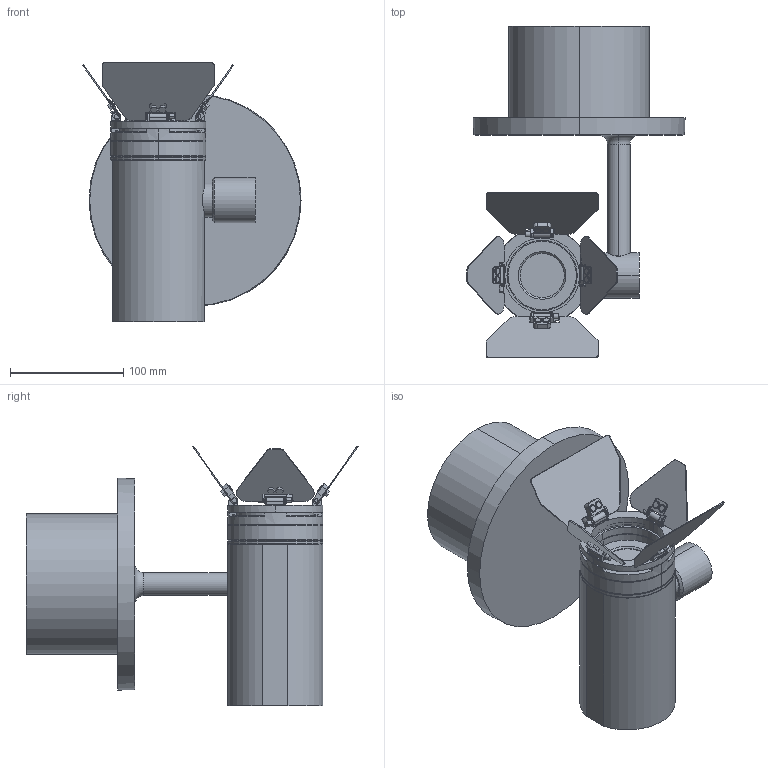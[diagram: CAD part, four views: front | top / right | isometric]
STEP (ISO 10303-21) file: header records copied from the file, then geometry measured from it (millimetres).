
FILE_DESCRIPTION (( 'STEP AP203' ), '1' );
FILE_NAME ('P1X (Monopoint)_Hanging_10-06-2026.STEP', '2026-06-10T01:14:42', ( '' ), ( '' ), 'SwSTEP 2.0', 'SolidWorks 2014', '' );
FILE_SCHEMA (( 'CONFIG_CONTROL_DESIGN' ));
Length unit declared in the file: millimetre
Products named in the file (4): Monopoint_Yoke+PSU; 2.5 inch 4-leaf Barndoor; P1X - Light Body; P1X (Monopoint)_Hanging_10-06-2026
Assembly tree (3 placements, depth 2):
  P1X (Monopoint)_Hanging_10-06-2026
    Monopoint_Yoke+PSU
    P1X - Light Body
    2.5 inch 4-leaf Barndoor
Bounding box: 192.48 x 292.91 x 229.38 mm (x, y, z)
Volume: 2279775.7 mm3; surface area: 221765.7 mm2
Topology: 3 solids, 11 shells, 478 faces, 1192 edges, 765 vertices
Faces by surface type: plane 293, cylinder 153, cone 30, torus 2
Entity records: 14728 total; most frequent: CARTESIAN_POINT 2586, DIRECTION 2527, ORIENTED_EDGE 2384, EDGE_CURVE 1192, AXIS2_PLACEMENT_3D 860, LINE 807, VECTOR 807, VERTEX_POINT 765
